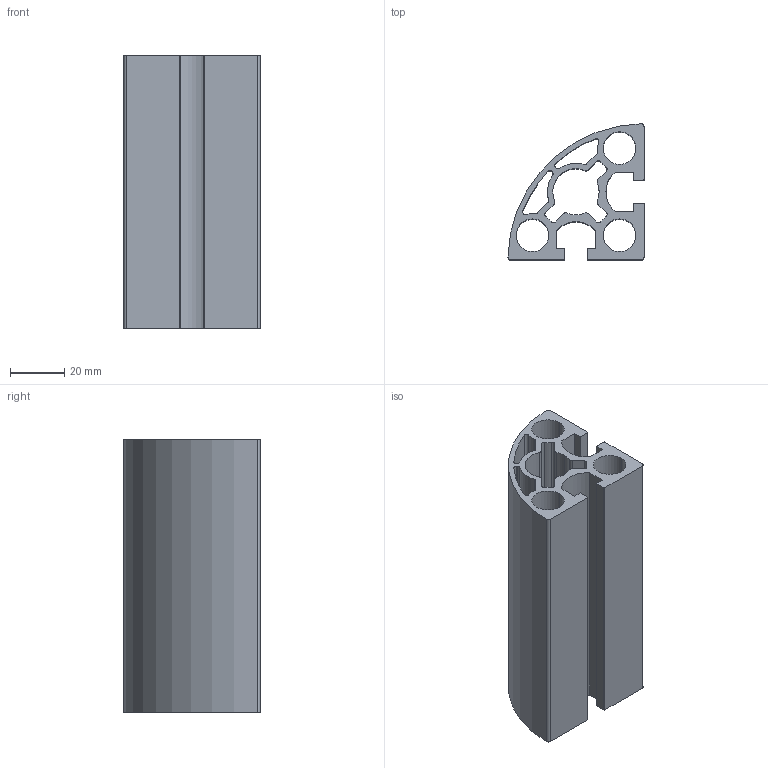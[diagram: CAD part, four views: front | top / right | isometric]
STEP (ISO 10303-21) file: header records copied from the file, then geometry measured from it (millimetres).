
FILE_DESCRIPTION (( 'STEP AP203' ), '1' );
FILE_NAME ('WSR5050-8.STEP', '2024-02-19T05:37:26', ( '' ), ( '' ), 'SwSTEP 2.0', 'SolidWorks 2022', '' );
FILE_SCHEMA (( 'CONFIG_CONTROL_DESIGN' ));
Length unit declared in the file: millimetre
Products named in the file (1): WSR5050-8
Bounding box: 49.99 x 49.99 x 100 mm (x, y, z)
Volume: 81717.7 mm3; surface area: 54915.7 mm2
Topology: 1 solids, 1 shells, 86 faces, 252 edges, 168 vertices
Faces by surface type: cylinder 58, plane 28
Entity records: 3013 total; most frequent: DIRECTION 542, CARTESIAN_POINT 507, ORIENTED_EDGE 504, EDGE_CURVE 252, AXIS2_PLACEMENT_3D 203, VERTEX_POINT 168, VECTOR 136, LINE 136
